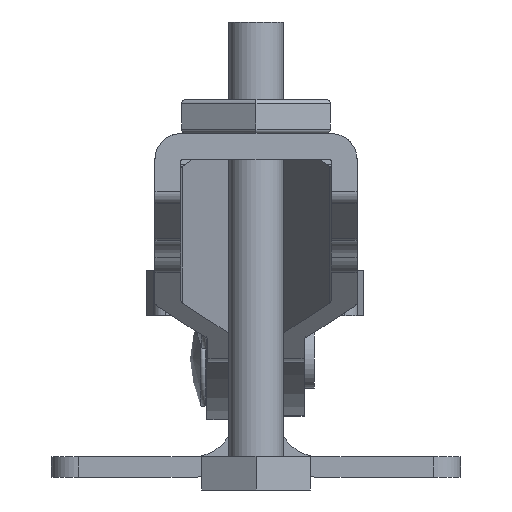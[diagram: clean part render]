
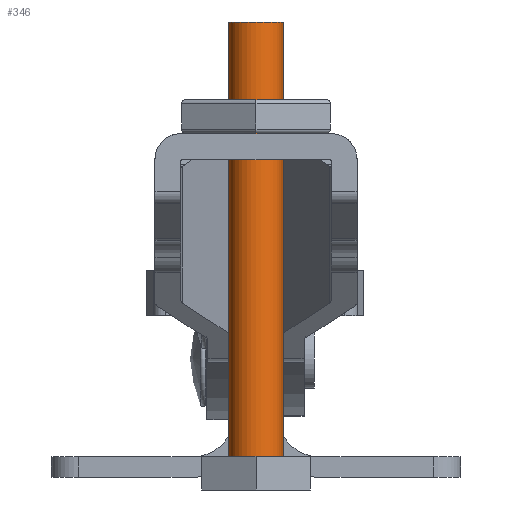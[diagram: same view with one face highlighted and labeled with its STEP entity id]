
A CAD part, left-side view. The second image highlights one B-rep face of the part: STEP entity #346.
In plain terms, the highlighted cylindrical face has radius 1.587 mm (diameter 3.175 mm), a full revolution.
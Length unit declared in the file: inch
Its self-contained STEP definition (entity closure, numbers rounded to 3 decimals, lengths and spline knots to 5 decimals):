
#182=CYLINDRICAL_SURFACE('',#4445,0.0625);
#346=ADVANCED_FACE('',(#1541,#1542),#182,.T.);
#1541=FACE_BOUND('',#1720,.T.);
#1542=FACE_BOUND('',#1721,.T.);
#1720=EDGE_LOOP('',(#2292));
#1721=EDGE_LOOP('',(#2293));
#2292=ORIENTED_EDGE('',*,*,#3682,.T.);
#2293=ORIENTED_EDGE('',*,*,#3683,.T.);
#3231=VERTEX_POINT('',#7166);
#3232=VERTEX_POINT('',#7169);
#3682=EDGE_CURVE('',#3231,#3231,#4149,.T.);
#3683=EDGE_CURVE('',#3232,#3232,#4150,.T.);
#4149=CIRCLE('',#4442,0.0625);
#4150=CIRCLE('',#4444,0.0625);
#4442=AXIS2_PLACEMENT_3D('',#7165,#5110,#5111);
#4444=AXIS2_PLACEMENT_3D('',#7168,#5114,#5115);
#4445=AXIS2_PLACEMENT_3D('',#7170,#5116,#5117);
#5110=DIRECTION('',(0.,0.,1.));
#5111=DIRECTION('',(0.,1.,0.));
#5114=DIRECTION('',(0.,0.,-1.));
#5115=DIRECTION('',(-1.,0.,0.));
#5116=DIRECTION('',(0.,0.,-1.));
#5117=DIRECTION('',(-1.,0.,0.));
#7165=CARTESIAN_POINT('',(-1.1119,-0.3152,0.04897));
#7166=CARTESIAN_POINT('',(-1.1119,-0.2527,0.04897));
#7168=CARTESIAN_POINT('',(-1.1119,-0.3152,1.04897));
#7169=CARTESIAN_POINT('',(-1.1744,-0.3152,1.04897));
#7170=CARTESIAN_POINT('',(-1.1119,-0.3152,1.04897));
